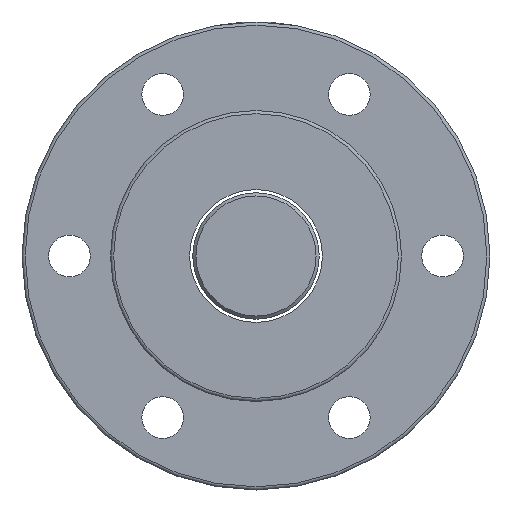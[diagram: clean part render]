
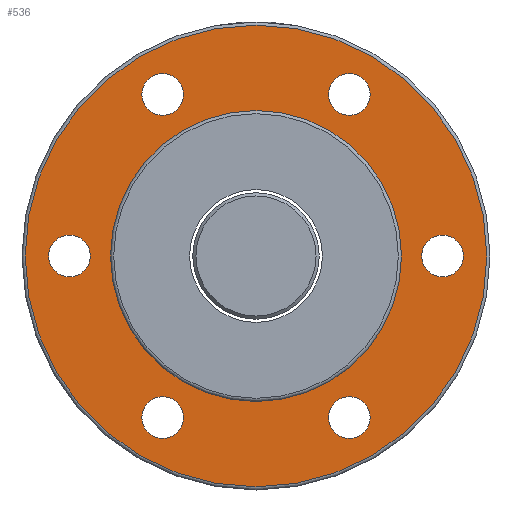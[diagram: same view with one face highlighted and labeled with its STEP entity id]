
A CAD part, left-side view. The second image highlights one B-rep face of the part: STEP entity #536.
In plain terms, the highlighted planar face has unit normal (-1, 0, 0).
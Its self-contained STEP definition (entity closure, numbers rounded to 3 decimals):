
#74=PLANE('',#638);
#164=ORIENTED_EDGE('',*,*,#227,.F.);
#165=ORIENTED_EDGE('',*,*,#238,.T.);
#166=ORIENTED_EDGE('',*,*,#225,.F.);
#167=ORIENTED_EDGE('',*,*,#221,.F.);
#168=ORIENTED_EDGE('',*,*,#217,.F.);
#169=ORIENTED_EDGE('',*,*,#213,.F.);
#170=ORIENTED_EDGE('',*,*,#209,.F.);
#171=ORIENTED_EDGE('',*,*,#205,.F.);
#205=EDGE_CURVE('',#256,#256,#303,.T.);
#209=EDGE_CURVE('',#260,#260,#307,.T.);
#213=EDGE_CURVE('',#264,#264,#311,.T.);
#217=EDGE_CURVE('',#268,#268,#315,.T.);
#221=EDGE_CURVE('',#272,#272,#319,.T.);
#225=EDGE_CURVE('',#276,#276,#323,.T.);
#227=EDGE_CURVE('',#278,#278,#325,.T.);
#238=EDGE_CURVE('',#289,#289,#332,.T.);
#256=VERTEX_POINT('',#835);
#260=VERTEX_POINT('',#846);
#264=VERTEX_POINT('',#857);
#268=VERTEX_POINT('',#868);
#272=VERTEX_POINT('',#879);
#276=VERTEX_POINT('',#890);
#278=VERTEX_POINT('',#895);
#289=VERTEX_POINT('',#942);
#303=CIRCLE('',#586,3.3);
#307=CIRCLE('',#593,3.3);
#311=CIRCLE('',#600,3.3);
#315=CIRCLE('',#607,3.3);
#319=CIRCLE('',#614,3.3);
#323=CIRCLE('',#621,3.3);
#325=CIRCLE('',#624,36.5);
#332=CIRCLE('',#637,23.);
#401=EDGE_LOOP('',(#164));
#402=EDGE_LOOP('',(#165));
#403=EDGE_LOOP('',(#166));
#404=EDGE_LOOP('',(#167));
#405=EDGE_LOOP('',(#168));
#406=EDGE_LOOP('',(#169));
#407=EDGE_LOOP('',(#170));
#408=EDGE_LOOP('',(#171));
#485=FACE_BOUND('',#401,.T.);
#486=FACE_BOUND('',#402,.T.);
#487=FACE_BOUND('',#403,.T.);
#488=FACE_BOUND('',#404,.T.);
#489=FACE_BOUND('',#405,.T.);
#490=FACE_BOUND('',#406,.T.);
#491=FACE_BOUND('',#407,.T.);
#492=FACE_BOUND('',#408,.T.);
#536=ADVANCED_FACE('',(#485,#486,#487,#488,#489,#490,#491,#492),#74,.T.);
#586=AXIS2_PLACEMENT_3D('',#834,#683,#684);
#593=AXIS2_PLACEMENT_3D('',#845,#697,#698);
#600=AXIS2_PLACEMENT_3D('',#856,#711,#712);
#607=AXIS2_PLACEMENT_3D('',#867,#725,#726);
#614=AXIS2_PLACEMENT_3D('',#878,#739,#740);
#621=AXIS2_PLACEMENT_3D('',#889,#753,#754);
#624=AXIS2_PLACEMENT_3D('',#894,#759,#760);
#637=AXIS2_PLACEMENT_3D('',#941,#785,#786);
#638=AXIS2_PLACEMENT_3D('',#943,#787,#788);
#683=DIRECTION('',(-1.,0.,0.));
#684=DIRECTION('',(0.,-1.,0.));
#697=DIRECTION('',(-1.,0.,0.));
#698=DIRECTION('',(0.,-1.,0.));
#711=DIRECTION('',(-1.,0.,0.));
#712=DIRECTION('',(0.,-1.,0.));
#725=DIRECTION('',(-1.,0.,0.));
#726=DIRECTION('',(0.,-1.,0.));
#739=DIRECTION('',(-1.,0.,0.));
#740=DIRECTION('',(0.,-1.,0.));
#753=DIRECTION('',(-1.,0.,0.));
#754=DIRECTION('',(0.,-1.,0.));
#759=DIRECTION('',(1.,0.,0.));
#760=DIRECTION('',(0.,1.,0.));
#785=DIRECTION('',(1.,0.,0.));
#786=DIRECTION('',(0.,1.,0.));
#787=DIRECTION('',(-1.,0.,0.));
#788=DIRECTION('',(0.,-1.,0.));
#834=CARTESIAN_POINT('',(-29.5,29.5,0.));
#835=CARTESIAN_POINT('',(-29.5,26.2,0.));
#845=CARTESIAN_POINT('',(-29.5,-29.5,0.));
#846=CARTESIAN_POINT('',(-29.5,-32.8,0.));
#856=CARTESIAN_POINT('',(-29.5,14.75,-25.548));
#857=CARTESIAN_POINT('',(-29.5,11.45,-25.548));
#867=CARTESIAN_POINT('',(-29.5,-14.75,-25.548));
#868=CARTESIAN_POINT('',(-29.5,-18.05,-25.548));
#878=CARTESIAN_POINT('',(-29.5,-14.75,25.548));
#879=CARTESIAN_POINT('',(-29.5,-18.05,25.548));
#889=CARTESIAN_POINT('',(-29.5,14.75,25.548));
#890=CARTESIAN_POINT('',(-29.5,11.45,25.548));
#894=CARTESIAN_POINT('',(-29.5,0.,0.));
#895=CARTESIAN_POINT('',(-29.5,36.5,0.));
#941=CARTESIAN_POINT('',(-29.5,0.,0.));
#942=CARTESIAN_POINT('',(-29.5,23.,0.));
#943=CARTESIAN_POINT('',(-29.5,29.75,0.));
